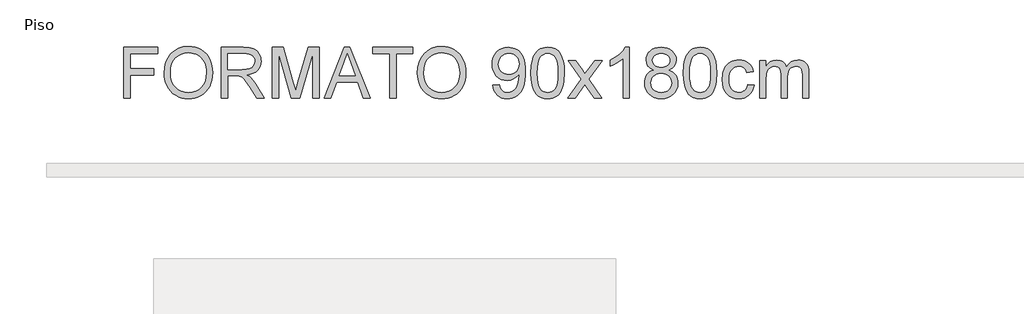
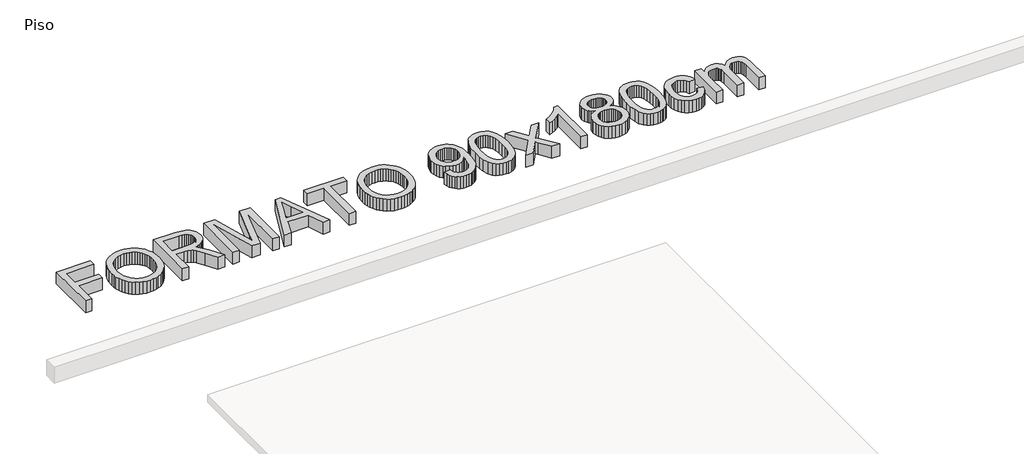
# One storey, part 2 of 2: 1 proxy.
"""IFC4 building model written with IfcOpenShell, lengths in millimetres."""

from ifc_helpers import new_model, si_unit, origin, origin_with_axes, place, context, project, spatial, polyline, outline, extrude, element, save

model = new_model("IFC4")

# Units and contexts
model_context = context("Model", 3, world=origin())
ifc_project = project(units=[si_unit("LENGTHUNIT", "METRE", prefix="MILLI")], contexts=[model_context])

# Site, building, storey
site = spatial("IfcSite", under=ifc_project)
building = spatial("IfcBuilding", under=site)
storey = spatial("IfcBuildingStorey", under=building, Name="Piso", Elevation=0.0)

# Proxy
placement = place(None, origin())
element("IfcBuildingElementProxy", 1, Name="600mm Arial", ObjectType="600mm Arial", at=placement, inside=storey, context=model_context, shape_type="SweptSolid", body=[
    extrude(outline(polyline([(87427.0835359, 3625.4987334), (87427.0835359, 4228.2365943), (87832.0480362, 4228.2365943), (87832.0480362, 4152.8943616), (87502.4257685, 4152.8943616), (87502.4257685, 3973.9565592), (87784.9591408, 3973.9565592), (87784.9591408, 3898.6143266), (87502.4257685, 3898.6143266), (87502.4257685, 3625.4987334), (87427.0835359, 3625.4987334)])), origin_with_axes(), (0.0, 0.0, 1.0), 150.0),
    extrude(outline(polyline([(87907.3902688, 3918.9214127), (87912.4118581, 3989.6191351), (87927.4766258, 4052.2050596), (87952.5845719, 4106.679186), (87968.904737, 4130.874325), (87987.7356966, 4153.0415144), (88030.8238753, 4190.0596402), (88079.7429836, 4216.5011586), (88134.4930215, 4232.3660697), (88195.0739891, 4237.6543733), (88235.623782, 4235.1711699), (88274.1318298, 4227.7215595), (88310.5981326, 4215.3055421), (88345.0226903, 4197.9231179), (88376.4398127, 4176.0985185), (88403.8838095, 4150.3559759), (88427.3546808, 4120.69549), (88446.8524266, 4087.1170609), (88462.1747117, 4050.3840437), (88473.119201, 4011.2597935), (88479.6858946, 3969.7443103), (88481.8747925, 3925.8375942), (88479.5709315, 3881.351464), (88472.6593485, 3839.2749608), (88461.1400435, 3799.6080846), (88445.0130166, 3762.3508356), (88424.6599452, 3728.4872979), (88400.462507, 3699.001556), (88372.4207019, 3673.8936098), (88340.53453, 3653.1634594), (88306.0593885, 3636.9398634), (88270.2506748, 3625.3515806), (88233.1083888, 3618.3986109), (88194.6325307, 3616.0809543), (88153.3745649, 3618.6423327), (88114.3606793, 3626.3264679), (88077.5908739, 3639.1333598), (88043.0651487, 3657.0630085), (88011.6848145, 3679.4210368), (87984.3511822, 3705.5130673), (87961.0642519, 3735.3391001), (87941.8240236, 3768.8991351), (87926.7592559, 3804.8458045), (87915.9987075, 3841.8317406), (87909.5423785, 3879.8569434), (87907.3902688, 3918.9214127)]), holes=[polyline([(87982.7325014, 3918.1856487), (87986.4986934, 3868.2364708), (87997.7972691, 3823.8974934), (88016.6282288, 3785.1687163), (88042.9915723, 3752.0501397), (88075.0386926, 3725.5258479), (88110.9209827, 3706.5799251), (88150.6384426, 3695.2123714), (88194.1910723, 3691.4231869), (88238.488663, 3695.2491596), (88278.6751725, 3706.7270779), (88314.7506006, 3725.8569416), (88346.7149475, 3752.6387509), (88372.8851529, 3786.4563033), (88391.5781568, 3826.6933965), (88402.7939591, 3873.3500306), (88406.5325599, 3926.4262054), (88404.9322732, 3960.9059454), (88400.1314132, 3993.1232111), (88392.1299798, 4023.0780026), (88380.927973, 4050.7703198), (88366.6495531, 4075.8368792), (88349.4188801, 4097.9143975), (88329.2359542, 4117.0028745), (88306.1007752, 4133.1023103), (88280.7307131, 4145.8816111), (88253.8431378, 4155.0096831), (88225.4380492, 4160.4865263), (88195.5154475, 4162.3121407), (88153.4757325, 4158.7942691), (88114.4710439, 4148.2406544), (88078.5013818, 4130.6512965), (88045.5667462, 4106.0261955), (88018.0767641, 4073.1789318), (87998.4410626, 4030.9230861), (87986.6596417, 3979.2586584), (87982.7325014, 3918.1856487)])]), origin_with_axes(), (0.0, 0.0, 1.0), 150.0),
    extrude(outline(polyline([(88585.4703623, 3625.4987334), (88585.4703623, 4228.2365943), (88845.1950509, 4228.2365943), (88915.0006595, 4224.1714982), (88965.786769, 4211.9762101), (88985.3856823, 4202.2825195), (89002.9060623, 4189.461832), (89018.347909, 4173.5141475), (89031.7112225, 4154.439466), (89042.4947635, 4133.2632587), (89050.1972928, 4111.0109965), (89054.8188103, 4087.6826795), (89056.3593162, 4063.2783076), (89053.8071348, 4032.3210377), (89046.1505908, 4003.9021536), (89033.3896841, 3978.0216552), (89015.5244147, 3954.6795426), (88992.3248564, 3934.6207769), (88963.5610829, 3918.5903189), (88929.2330942, 3906.5881688), (88889.3408904, 3898.6143266), (88914.172925, 3882.3907306), (88932.1623546, 3866.3878638), (88963.027654, 3829.7836053), (88993.2307658, 3788.8383392), (89093.7361269, 3625.4987334), (89006.180212, 3625.4987334), (88927.7477707, 3750.4314589), (88871.0939434, 3833.1313314), (88850.0326992, 3857.2459962), (88831.2891115, 3872.2003993), (88795.4574052, 3886.5477971), (88751.7530242, 3889.1965475), (88660.812595, 3889.1965475), (88660.812595, 3625.4987334), (88585.4703623, 3625.4987334)]), holes=[polyline([(88660.812595, 3964.5387801), (88829.4497015, 3964.5387801), (88877.8813662, 3967.2059246), (88915.460512, 3975.207358), (88943.7506374, 3989.0765092), (88964.315241, 4009.3468071), (88976.8416229, 4033.8661421), (88981.0170836, 4060.4824045), (88979.0259223, 4079.750224), (88973.0524384, 4097.2338158), (88963.0966319, 4112.9331799), (88949.1585028, 4126.8483164), (88930.9161543, 4138.2434612), (88908.0476898, 4146.3828503), (88880.5531092, 4151.2664838), (88848.4324125, 4152.8943616), (88660.812595, 4152.8943616), (88660.812595, 3964.5387801)])]), origin_with_axes(), (0.0, 0.0, 1.0), 150.0),
    extrude(outline(polyline([(89188.2082232, 3625.4987334), (89188.2082232, 4228.2365943), (89317.8498383, 4228.2365943), (89441.1638831, 3803.4064662), (89466.032706, 3714.673329), (89492.961668, 3810.7641061), (89614.2155737, 4228.2365943), (89743.8571888, 4228.2365943), (89743.8571888, 3625.4987334), (89668.5149561, 3625.4987334), (89668.5149561, 4152.8943616), (89517.0947269, 3625.4987334), (89414.9706851, 3625.4987334), (89263.5504559, 4152.8943616), (89263.5504559, 3625.4987334), (89188.2082232, 3625.4987334)])), origin_with_axes(), (0.0, 0.0, 1.0), 150.0),
    extrude(outline(polyline([(89805.5142111, 3625.4987334), (90046.109036, 4228.2365943), (90110.267656, 4228.2365943), (90350.8624808, 3625.4987334), (90271.252817, 3625.4987334), (90202.2381547, 3813.8543149), (89953.9913844, 3813.8543149), (89885.1238749, 3625.4987334), (89805.5142111, 3625.4987334)]), holes=[polyline([(89981.6561104, 3889.1965475), (90174.7205815, 3889.1965475), (90120.421199, 4037.3794152), (90078.188346, 4152.8943616), (90040.6643825, 4050.3288614), (89981.6561104, 3889.1965475)])]), origin_with_axes(), (0.0, 0.0, 1.0), 150.0),
    extrude(outline(polyline([(90582.0395266, 3625.4987334), (90582.0395266, 4152.8943616), (90384.266166, 4152.8943616), (90384.266166, 4228.2365943), (90855.1551198, 4228.2365943), (90855.1551198, 4152.8943616), (90657.3817592, 4152.8943616), (90657.3817592, 3625.4987334), (90582.0395266, 3625.4987334)])), origin_with_axes(), (0.0, 0.0, 1.0), 150.0),
    extrude(outline(polyline([(90911.6617942, 3918.9214127), (90916.6833835, 3989.6191351), (90931.7481512, 4052.2050596), (90956.8560974, 4106.679186), (90973.1762624, 4130.874325), (90992.007222, 4153.0415144), (91035.0954007, 4190.0596402), (91084.014509, 4216.5011586), (91138.7645469, 4232.3660697), (91199.3455145, 4237.6543733), (91239.8953074, 4235.1711699), (91278.4033552, 4227.7215595), (91314.869658, 4215.3055421), (91349.2942157, 4197.9231179), (91380.7113381, 4176.0985185), (91408.1553349, 4150.3559759), (91431.6262062, 4120.69549), (91451.123952, 4087.1170609), (91466.4462371, 4050.3840437), (91477.3907264, 4011.2597935), (91483.95742, 3969.7443103), (91486.1463179, 3925.8375942), (91483.8424569, 3881.351464), (91476.9308739, 3839.2749608), (91465.411569, 3799.6080846), (91449.284542, 3762.3508356), (91428.9314706, 3728.4872979), (91404.7340324, 3699.001556), (91376.6922273, 3673.8936098), (91344.8060554, 3653.1634594), (91310.3309139, 3636.9398634), (91274.5222002, 3625.3515806), (91237.3799143, 3618.3986109), (91198.9040561, 3616.0809543), (91157.6460903, 3618.6423327), (91118.6322047, 3626.3264679), (91081.8623993, 3639.1333598), (91047.3366741, 3657.0630085), (91015.9563399, 3679.4210368), (90988.6227076, 3705.5130673), (90965.3357773, 3735.3391001), (90946.095549, 3768.8991351), (90931.0307813, 3804.8458045), (90920.2702329, 3841.8317406), (90913.8139039, 3879.8569434), (90911.6617942, 3918.9214127)]), holes=[polyline([(90987.0040269, 3918.1856487), (90990.7702188, 3868.2364708), (91002.0687946, 3823.8974934), (91020.8997542, 3785.1687163), (91047.2630977, 3752.0501397), (91079.310218, 3725.5258479), (91115.1925081, 3706.5799251), (91154.909968, 3695.2123714), (91198.4625977, 3691.4231869), (91242.7601884, 3695.2491596), (91282.9466979, 3706.7270779), (91319.022126, 3725.8569416), (91350.9864729, 3752.6387509), (91377.1566783, 3786.4563033), (91395.8496822, 3826.6933965), (91407.0654845, 3873.3500306), (91410.8040853, 3926.4262054), (91409.2037986, 3960.9059454), (91404.4029386, 3993.1232111), (91396.4015052, 4023.0780026), (91385.1994984, 4050.7703198), (91370.9210785, 4075.8368792), (91353.6904056, 4097.9143975), (91333.5074796, 4117.0028745), (91310.3723006, 4133.1023103), (91285.0022385, 4145.8816111), (91258.1146632, 4155.0096831), (91229.7095747, 4160.4865263), (91199.7869729, 4162.3121407), (91157.7472579, 4158.7942691), (91118.7425693, 4148.2406544), (91082.7729073, 4130.6512965), (91049.8382716, 4106.0261955), (91022.3482895, 4073.1789318), (91002.7125881, 4030.9230861), (90990.9311672, 3979.2586584), (90987.0040269, 3918.1856487)])]), origin_with_axes(), (0.0, 0.0, 1.0), 150.0),
    extrude(outline(polyline([(91806.3508065, 3776.1831986), (91881.6930391, 3785.6009777), (91894.568909, 3742.8346957), (91904.0418703, 3726.569713), (91915.5381827, 3713.7168358), (91928.9290873, 3703.9633644), (91944.0858255, 3696.9965991), (91979.6968026, 3691.4231869), (92011.6473539, 3695.0100364), (92040.6916374, 3705.7705847), (92064.8246963, 3722.5276096), (92082.0415737, 3744.1038886), (92095.0829904, 3772.4675904), (92106.6896674, 3809.5868837), (92114.8566477, 3852.1876188), (92117.5789744, 3896.9956458), (92117.137516, 3911.7109256), (92091.0362885, 3879.8523448), (92056.8784452, 3854.61564), (92017.1287957, 3838.1713148), (91974.2521491, 3832.689873), (91938.4618295, 3836.0375992), (91905.5501865, 3846.0807777), (91875.5172201, 3862.8194085), (91848.3629304, 3886.2534915), (91825.8623478, 3915.1598193), (91809.7905032, 3948.3151841), (91800.1473964, 3985.719586), (91796.9330274, 4027.3730249), (91800.3037462, 4070.4152183), (91810.4159026, 4109.0428278), (91827.2694965, 4143.2558534), (91850.8645279, 4173.054295), (91879.5363309, 4197.1965509), (91911.6202394, 4214.4410194), (91947.1162534, 4224.7877006), (91986.024373, 4228.2365943), (92014.7513583, 4226.2684256), (92042.2183477, 4220.3639196), (92068.4253414, 4210.5230762), (92093.3723392, 4196.7458955), (92116.2270081, 4179.326683), (92136.1570152, 4158.5597444), (92153.1623604, 4134.4450796), (92167.2430438, 4106.9826886), (92178.2841022, 4074.590679), (92186.1705724, 4035.687158), (92190.9024546, 3990.2721257), (92192.4797487, 3938.3455821), (92190.9070531, 3883.8116748), (92186.1889665, 3835.1362883), (92178.3254889, 3792.3194226), (92167.3166202, 3755.3610777), (92153.2037471, 3723.3599426), (92136.0282565, 3695.4147065), (92115.7901482, 3671.5253695), (92092.4894224, 3651.6919314), (92066.5951284, 3636.1121289), (92038.576316, 3624.9836986), (92008.432985, 3618.3066404), (91976.1651355, 3616.0809543), (91942.329189, 3618.706712), (91911.7489981, 3626.5839852), (91884.4245629, 3639.712774), (91860.3558834, 3658.0930781), (91840.1499648, 3681.2282571), (91824.4138125, 3708.6216702), (91813.1474264, 3740.2733173), (91806.3508065, 3776.1831986)]), holes=[polyline([(92117.137516, 4029.1388585), (92115.104968, 4056.1413969), (92109.0073239, 4080.2008794), (92098.8445838, 4101.3173059), (92084.6167477, 4119.4906765), (92067.0227912, 4134.1047887), (92046.7616904, 4144.5434404), (92023.833445, 4150.8066313), (91998.2380552, 4152.8943616), (91971.8241279, 4150.645683), (91947.9117983, 4143.8996469), (91926.5010661, 4132.6562534), (91907.5919316, 4116.9155025), (91892.1408878, 4097.5970992), (91881.1044279, 4075.6207486), (91874.482552, 4050.9864505), (91872.2752601, 4023.6942049), (91874.3629904, 3999.2162567), (91880.6261813, 3977.1387385), (91891.064833, 3957.4616502), (91905.6789452, 3940.184992), (91923.8615128, 3926.1181042), (91945.0055305, 3916.0703273), (91969.1109982, 3910.0416611), (91996.177916, 3908.0321057), (92021.4192194, 3910.0416611), (92044.3152751, 3916.0703273), (92064.8660831, 3926.1181042), (92083.0716433, 3940.184992), (92097.9754626, 3957.8019411), (92108.6210479, 3978.4999018), (92115.008399, 4002.2788743), (92117.137516, 4029.1388585)])]), origin_with_axes(), (0.0, 0.0, 1.0), 150.0),
    extrude(outline(polyline([(92258.4042022, 3922.0116215), (92263.9408262, 4018.4886747), (92270.8616063, 4059.4017511), (92280.5506983, 4095.431194), (92292.9667156, 4126.871309), (92308.0682715, 4154.0164017), (92325.855366, 4176.8664722), (92346.327999, 4195.4215203), (92369.5551485, 4209.7781152), (92395.6057923, 4220.0328258), (92424.4799304, 4226.1856521), (92456.1775628, 4228.2365943), (92502.6042706, 4223.3805519), (92544.174936, 4208.8124249), (92578.9397846, 4185.1024303), (92604.9490416, 4152.8207852), (92624.5939402, 4112.2434012), (92640.2657132, 4063.6461896), (92650.5296208, 4001.9339849), (92653.9509234, 3922.0116215), (92648.4694817, 3826.0863912), (92641.6176795, 3785.3112706), (92632.0251565, 3749.3278129), (92619.7057082, 3717.8739024), (92604.6731302, 3690.6874229), (92586.9274224, 3667.7683746), (92566.468585, 3649.1167575), (92543.2138443, 3634.6635936), (92517.0804271, 3624.3399051), (92488.0683333, 3618.145692), (92456.1775628, 3616.0809543), (92414.6804737, 3619.6678037), (92377.8922742, 3630.4283521), (92345.8129642, 3648.3625994), (92318.4425438, 3673.4705455), (92292.1757693, 3718.8579867), (92273.4137876, 3775.4106464), (92262.1565985, 3843.1285247), (92258.4042022, 3922.0116215)]), holes=[polyline([(92333.7464348, 3922.1587743), (92335.9537268, 3856.6619836), (92342.5756027, 3803.6455895), (92353.6120625, 3763.1095922), (92369.0631063, 3735.0539915), (92387.7515117, 3715.9655145), (92408.5000562, 3702.3308881), (92431.3087399, 3694.1501122), (92456.1775628, 3691.4231869), (92481.0463857, 3694.1593092), (92503.8550694, 3702.3676763), (92524.6036139, 3716.0482879), (92543.2920193, 3735.2011443), (92558.7430631, 3763.3027302), (92569.7795229, 3803.8295305), (92576.4013988, 3856.7815452), (92578.6086908, 3922.1587743), (92576.4749752, 3985.9219211), (92570.0738285, 4038.0048146), (92559.4052506, 4078.4074547), (92544.4692416, 4107.1298414), (92526.093536, 4127.151819), (92505.1058682, 4141.4532316), (92481.5062382, 4150.0340791), (92455.294646, 4152.8943616), (92430.5545818, 4150.37437), (92408.1321742, 4142.814395), (92388.0274232, 4130.2144366), (92370.2403287, 4112.574495), (92354.2742501, 4081.3045254), (92342.8699083, 4039.1452487), (92336.0273032, 3986.096665), (92333.7464348, 3922.1587743)])]), origin_with_axes(), (0.0, 0.0, 1.0), 150.0),
    extrude(outline(polyline([(92691.6220397, 3625.4987334), (92852.6072008, 3847.993764), (92701.0398188, 4068.13435), (92791.6859424, 4068.13435), (92864.820883, 3962.1843353), (92898.9603322, 3912.152384), (92928.5380446, 3953.0608619), (93011.8265283, 4068.13435), (93102.4726519, 4068.13435), (92943.2533244, 3847.993764), (93096.58654, 3625.4987334), (93005.9404164, 3625.4987334), (92913.675612, 3759.2606268), (92896.7530402, 3783.6879913), (92782.2681633, 3625.4987334), (92691.6220397, 3625.4987334)])), origin_with_axes(), (0.0, 0.0, 1.0), 150.0),
    extrude(outline(polyline([(93426.2088077, 3625.4987334), (93350.8665751, 3625.4987334), (93350.8665751, 4095.2104648), (93319.4126645, 4069.7714248), (93279.497468, 4044.3691731), (93237.5957088, 4022.1674947), (93200.1821098, 4006.3301748), (93200.1821098, 4077.552129), (93259.3559288, 4109.7418036), (93310.6202848, 4148.0383193), (93351.032122, 4188.7628562), (93377.6483843, 4228.2365943), (93426.2088077, 4228.2365943), (93426.2088077, 3625.4987334)])), origin_with_axes(), (0.0, 0.0, 1.0), 150.0),
    extrude(outline(polyline([(93714.9225975, 3957.4754458), (93674.5843367, 3977.3410735), (93658.9263593, 3989.9226378), (93646.2758172, 4004.2700356), (93629.5555805, 4037.710509), (93623.9821683, 4077.1106706), (93627.0171947, 4107.8380143), (93636.1222741, 4136.0085781), (93651.2974064, 4161.622362), (93672.5425916, 4184.679366), (93698.8369573, 4203.7356534), (93729.1596307, 4217.3472872), (93763.510612, 4225.5142675), (93801.8899012, 4228.2365943), (93840.4531313, 4225.4498881), (93875.06163, 4217.0897698), (93905.7153972, 4203.1562392), (93932.414433, 4183.6492964), (93954.0458944, 4160.141637), (93969.4969382, 4134.2059563), (93978.7675644, 4105.8422545), (93981.8577732, 4075.0505315), (93976.3579374, 4036.9195627), (93959.8584299, 4004.0493064), (93947.437814, 3989.7984776), (93932.1753097, 3977.2858912), (93893.124636, 3957.4754458), (93917.8876928, 3946.9402252), (93939.4961614, 3933.5815102), (93957.950042, 3917.399301), (93973.2493345, 3898.3935974), (93985.2560831, 3876.9874638), (93993.8323321, 3853.6039645), (93998.9780815, 3828.2430994), (94000.6933313, 3800.9048687), (93997.2904229, 3763.3257229), (93987.0816975, 3728.873574), (93970.0671552, 3697.5484221), (93946.2467961, 3669.3502672), (93916.8714187, 3646.0449428), (93883.1918221, 3629.3982825), (93845.2080061, 3619.4102863), (93802.9199707, 3616.0809543), (93760.6319354, 3619.4240819), (93722.6481194, 3629.4534648), (93688.9685227, 3646.169103), (93659.5931454, 3669.5709964), (93635.7727862, 3697.9668879), (93618.758244, 3729.6645203), (93608.5495186, 3764.6638936), (93605.1466101, 3802.9650078), (93606.9308378, 3831.5494389), (93612.2835208, 3857.7058487), (93621.2046592, 3881.4342374), (93633.694253, 3902.7346049), (93649.4763906, 3921.2206752), (93668.2751605, 3936.5061721), (93690.0905628, 3948.5910956), (93714.9225975, 3957.4754458)]), holes=[polyline([(93699.3244009, 4074.9033787), (93700.9936655, 4057.631319), (93706.0014591, 4042.0147283), (93714.3477819, 4028.0536066), (93726.0326337, 4015.7479538), (93740.9088619, 4005.7047754), (93758.8293136, 3998.5310765), (93779.7939888, 3994.2268571), (93803.8028875, 3992.7921173), (93827.2185765, 3994.2176601), (93847.7279978, 3998.4942883), (93865.3311512, 4005.6220019), (93880.0280369, 4015.600801), (93891.6163198, 4027.6489364), (93899.8936647, 4040.9846587), (93904.8600716, 4055.607968), (93906.5155406, 4071.5188643), (93904.8048893, 4088.0505615), (93899.6729355, 4103.2118982), (93891.1196791, 4117.0028745), (93879.1451201, 4129.4234904), (93864.1171406, 4139.6919965), (93846.4036226, 4147.0266438), (93826.0045659, 4151.4274322), (93802.9199707, 4152.8943616), (93779.6560331, 4151.4596219), (93759.1604074, 4147.1554025), (93741.4330938, 4139.9817036), (93726.4740921, 4129.9385251), (93714.5961022, 4117.8903898), (93706.1118237, 4104.7018203), (93701.0212566, 4090.3728166), (93699.3244009, 4074.9033787)]), polyline([(93680.4888427, 3805.6137582), (93683.6342338, 3776.7902039), (93693.070407, 3748.8863545), (93710.4896195, 3724.5509606), (93737.5841284, 3706.4327723), (93770.0313204, 3695.1755832), (93803.5085819, 3691.4231869), (93830.7502437, 3693.3959541), (93854.7913321, 3699.3142557), (93875.6318471, 3709.1780917), (93893.2717888, 3722.9874621), (93907.3064869, 3739.841056), (93917.3312712, 3758.8375625), (93923.3461419, 3779.9769817), (93925.3510987, 3803.2593134), (93923.2817625, 3826.9141257), (93917.0737538, 3848.4352224), (93906.7270727, 3867.8226036), (93892.2417192, 3885.0762692), (93874.1235309, 3899.239726), (93852.8783457, 3909.3564808), (93828.5061635, 3915.4265338), (93801.0069844, 3917.4498847), (93774.1653943, 3915.4541249), (93750.4416041, 3909.4668454), (93729.8356139, 3899.4880463), (93712.3474235, 3885.5177276), (93698.4092944, 3868.5491705), (93688.4534879, 3849.5756566), (93682.480004, 3828.5971858), (93680.4888427, 3805.6137582)])]), origin_with_axes(), (0.0, 0.0, 1.0), 150.0),
    extrude(outline(polyline([(94066.6177849, 3922.0116215), (94072.1544089, 4018.4886747), (94079.0751889, 4059.4017511), (94088.764281, 4095.431194), (94101.1802983, 4126.871309), (94116.2818542, 4154.0164017), (94134.0689487, 4176.8664722), (94154.5415817, 4195.4215203), (94177.7687312, 4209.7781152), (94203.819375, 4220.0328258), (94232.6935131, 4226.1856521), (94264.3911455, 4228.2365943), (94310.8178533, 4223.3805519), (94352.3885187, 4208.8124249), (94387.1533673, 4185.1024303), (94413.1626243, 4152.8207852), (94432.8075229, 4112.2434012), (94448.4792959, 4063.6461896), (94458.7432035, 4001.9339849), (94462.1645061, 3922.0116215), (94456.6830644, 3826.0863912), (94449.8312622, 3785.3112706), (94440.2387392, 3749.3278129), (94427.9192909, 3717.8739024), (94412.8867128, 3690.6874229), (94395.1410051, 3667.7683746), (94374.6821676, 3649.1167575), (94351.427427, 3634.6635936), (94325.2940098, 3624.3399051), (94296.2819159, 3618.145692), (94264.3911455, 3616.0809543), (94222.8940564, 3619.6678037), (94186.1058569, 3630.4283521), (94154.0265469, 3648.3625994), (94126.6561265, 3673.4705455), (94100.389352, 3718.8579867), (94081.6273703, 3775.4106464), (94070.3701812, 3843.1285247), (94066.6177849, 3922.0116215)]), holes=[polyline([(94141.9600175, 3922.1587743), (94144.1673095, 3856.6619836), (94150.7891854, 3803.6455895), (94161.8256452, 3763.1095922), (94177.276689, 3735.0539915), (94195.9650944, 3715.9655145), (94216.7136389, 3702.3308881), (94239.5223226, 3694.1501122), (94264.3911455, 3691.4231869), (94289.2599684, 3694.1593092), (94312.0686521, 3702.3676763), (94332.8171966, 3716.0482879), (94351.5056019, 3735.2011443), (94366.9566457, 3763.3027302), (94377.9931056, 3803.8295305), (94384.6149815, 3856.7815452), (94386.8222735, 3922.1587743), (94384.6885579, 3985.9219211), (94378.2874112, 4038.0048146), (94367.6188333, 4078.4074547), (94352.6828243, 4107.1298414), (94334.3071187, 4127.151819), (94313.3194508, 4141.4532316), (94289.7198209, 4150.0340791), (94263.5082287, 4152.8943616), (94238.7681645, 4150.37437), (94216.3457569, 4142.814395), (94196.2410059, 4130.2144366), (94178.4539114, 4112.574495), (94162.4878328, 4081.3045254), (94151.083491, 4039.1452487), (94144.2408859, 3986.096665), (94141.9600175, 3922.1587743)])]), origin_with_axes(), (0.0, 0.0, 1.0), 150.0),
    extrude(outline(polyline([(94829.4578901, 3785.6009777), (94904.8001227, 3776.1831986), (94896.6055513, 3740.6320023), (94883.7940608, 3709.1734932), (94866.3656512, 3681.8076712), (94844.3203227, 3658.5345365), (94818.5869771, 3639.9610943), (94790.0945166, 3626.6943498), (94758.8429411, 3618.7343032), (94724.8322507, 3616.0809543), (94682.576405, 3619.7827669), (94644.689158, 3630.8882046), (94611.1705097, 3649.3972675), (94582.0204601, 3675.3099555), (94558.4254287, 3708.1388251), (94541.5718348, 3747.3964325), (94531.4596784, 3793.0827777), (94528.0889596, 3845.1978609), (94533.8463129, 3912.2443545), (94541.0430044, 3942.4152766), (94551.1183725, 3970.3513156), (94564.1413952, 3995.4914515), (94580.1810501, 4017.2746641), (94599.2373375, 4035.7009536), (94621.3102572, 4050.7703198), (94645.4019294, 4062.4873613), (94670.5144741, 4070.8566767), (94696.6478913, 4075.878266), (94723.8021811, 4077.552129), (94757.2288589, 4075.2528666), (94787.4641603, 4068.3550792), (94814.5080855, 4056.8587668), (94838.3606344, 4040.7639295), (94858.6171367, 4020.4384493), (94874.8729224, 3996.2502081), (94887.1279914, 3968.199206), (94895.3823436, 3936.2854429), (94820.040111, 3926.8676638), (94806.3732949, 3959.7379201), (94785.0913215, 3983.3007619), (94757.3714131, 3997.4826128), (94724.3907923, 4002.2098964), (94698.7908039, 3999.8830428), (94675.7016102, 3992.9024819), (94655.1232111, 3981.2682138), (94637.0556066, 3964.9802385), (94622.3449253, 3943.6614769), (94611.8372958, 3916.9348499), (94605.5327181, 3884.8003577), (94603.4311922, 3847.2580001), (94605.4867329, 3809.1500239), (94611.6533548, 3776.6430511), (94621.9310581, 3749.7370817), (94636.3198426, 3728.4321156), (94654.0287622, 3712.2407093), (94674.2668704, 3700.6754191), (94697.0341674, 3693.7362449), (94722.3306531, 3691.4231869), (94761.3445387, 3697.1989342), (94778.2165267, 3704.4186184), (94793.3318782, 3714.5261762), (94806.2675288, 3727.6319723), (94816.6004144, 3743.8463712), (94824.3305348, 3763.169373), (94829.4578901, 3785.6009777)])), origin_with_axes(), (0.0, 0.0, 1.0), 150.0),
    extrude(outline(polyline([(94970.7245762, 3625.4987334), (94970.7245762, 4068.13435), (95046.0668088, 4068.13435), (95046.0668088, 3995.2937149), (95068.7283397, 4028.7525824), (95097.8645938, 4054.9641745), (95132.4822895, 4071.9051404), (95171.5881456, 4077.552129), (95213.4899048, 4071.7947758), (95231.3229846, 4064.5980843), (95247.077531, 4054.5227161), (95272.1670831, 4026.8763842), (95288.5746201, 3989.9962142), (95316.037011, 4028.3019269), (95347.3621629, 4055.6631503), (95382.5500757, 4072.0798844), (95421.6007495, 4077.552129), (95451.7624746, 4075.2758592), (95478.2361827, 4068.4470497), (95501.0218738, 4057.0657004), (95520.1195478, 4041.1318115), (95535.2165052, 4020.4614419), (95546.0000462, 3994.8706506), (95552.4701708, 3964.3594376), (95554.626879, 3928.927803), (95554.626879, 3625.4987334), (95479.2846464, 3625.4987334), (95479.2846464, 3896.5541874), (95477.5372069, 3934.1333332), (95472.2948885, 3959.4620086), (95462.4724392, 3976.8076447), (95446.9846072, 3990.4376726), (95427.0637971, 3999.2668405), (95403.9424137, 4002.2098964), (95382.5914625, 4000.3245012), (95363.1259064, 3994.6683155), (95345.5457455, 3985.2413394), (95329.8509799, 3972.0435728), (95316.9429204, 3954.6887397), (95307.7228779, 3932.7905639), (95302.1908524, 3906.3490455), (95300.3468439, 3875.3641845), (95300.3468439, 3625.4987334), (95225.0046113, 3625.4987334), (95225.0046113, 3904.9418969), (95220.6452097, 3947.5426319), (95215.1959576, 3964.2628686), (95207.5670047, 3977.9296847), (95197.4548484, 3988.5522774), (95184.5559859, 3996.1398435), (95168.8704174, 4000.6923832), (95150.3981427, 4002.2098964), (95121.3722533, 3998.1631945), (95094.6272322, 3986.0230886), (95072.5543125, 3966.0838845), (95057.5447271, 3938.6398877), (95048.9362884, 3900.5641012), (95046.0668088, 3848.729528), (95046.0668088, 3625.4987334), (94970.7245762, 3625.4987334)])), origin_with_axes(), (0.0, 0.0, 1.0), 150.0),
])

save(model, "model.ifc")
